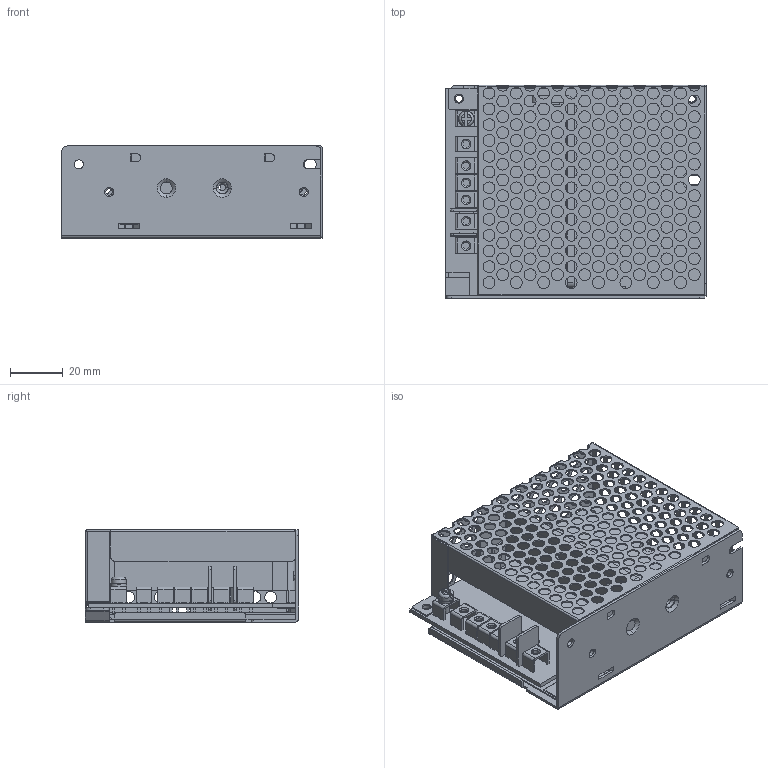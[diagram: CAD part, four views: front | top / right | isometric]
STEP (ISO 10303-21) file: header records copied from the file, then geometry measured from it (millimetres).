
FILE_DESCRIPTION(('Creo Elements/Direct Modeling STEP Export'),'2;1');
FILE_NAME('ERDN20.stp','2020-05-18T10:31:25',(''),(''),'PTC Creo Elements/Direct Modeling STEP processor for AP214 (Solid Model)','PTC Creo Elements/Direct Modeling 19.0E 27-Jun-2016 (C) Parametric Technology GmbH','');
FILE_SCHEMA(('AUTOMOTIVE_DESIGN { 1 0 10303 214 1 1 1 1 }'));
Length unit declared in the file: millimetre
Products named in the file (19): HS; PIN2-2; PIN2-2.1; HS-SZ100.1; 1; 装配1; 1HH160x19-3R0.1; 4; 3; TB1; ER20; 1HH3ERDN20-B; ER20-PCB; 932D-D; 932A-T; 1HH225x46x0.25; 1HH2932D
Assembly tree (24 placements, depth 5):
  ER20
    1HH2932D
    1HH225x46x0.25
    932A-T
    932D-D
    ER20-PCB
      1HH3ERDN20-B
      ER20
      TB1
        1
        装配1
          3
          4
      1HH160x19-3R0.1
      装配1
        1  x6
      HS-SZ100.1
        PIN2-2.1
        PIN2-2
        HS
Bounding box: 99 x 81 x 35 mm (x, y, z)
Volume: 39010.6 mm3; surface area: 87367.3 mm2
Topology: 19 solids, 19 shells, 1615 faces, 4685 edges, 3096 vertices
Faces by surface type: cylinder 1024, plane 515, torus 56, bspline 16, cone 4
Entity records: 46096 total; most frequent: CARTESIAN_POINT 9456, ORIENTED_EDGE 7966, DIRECTION 6850, EDGE_CURVE 3983, VERTEX_POINT 2634, AXIS2_PLACEMENT_3D 2483, EDGE_LOOP 2105, VECTOR 1884
